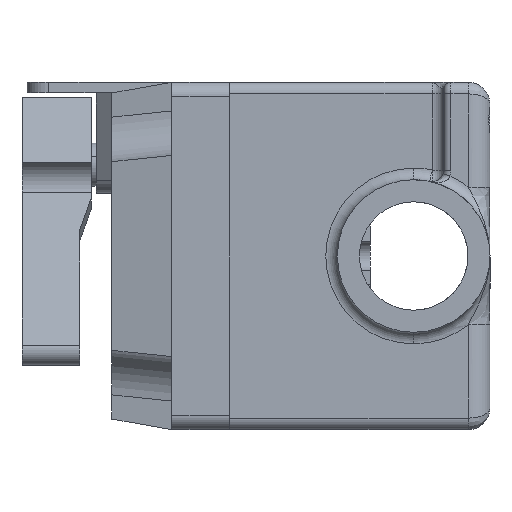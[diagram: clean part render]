
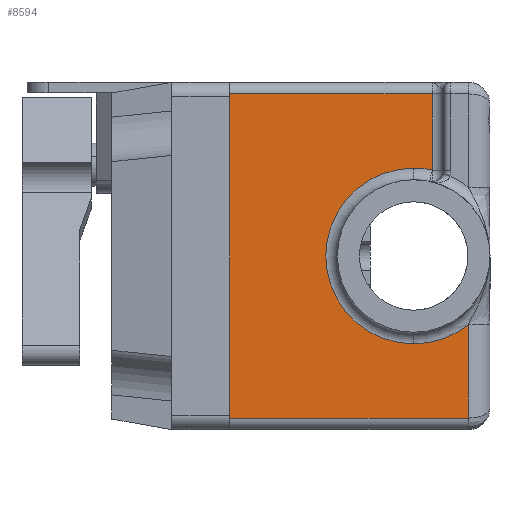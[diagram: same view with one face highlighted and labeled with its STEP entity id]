
A CAD part, left-side view. The second image highlights one B-rep face of the part: STEP entity #8594.
In plain terms, the highlighted planar face has unit normal (-1, 0, 0).
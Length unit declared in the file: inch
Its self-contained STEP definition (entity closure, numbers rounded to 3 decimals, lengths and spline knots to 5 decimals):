
#55 = CARTESIAN_POINT ( 'NONE',  ( -2.3125, 0.1875, -0.59491 ) ) ;
#247 = LINE ( 'NONE', #9741, #1621 ) ;
#485 = ORIENTED_EDGE ( 'NONE', *, *, #3374, .T. ) ;
#1287 = CARTESIAN_POINT ( 'NONE',  ( -2.3125, 2.25, 1.4 ) ) ;
#1344 = DIRECTION ( 'NONE',  ( 0., 0., 1. ) ) ;
#1399 = EDGE_CURVE ( 'NONE', #10306, #7744, #11190, .T. ) ;
#1621 = VECTOR ( 'NONE', #1344, 39.37008 ) ;
#1802 = LINE ( 'NONE', #6871, #5877 ) ;
#1851 = EDGE_CURVE ( 'NONE', #7744, #4723, #4985, .T. ) ;
#2232 = AXIS2_PLACEMENT_3D ( 'NONE', #11712, #15267, #8995 ) ;
#3038 = FACE_OUTER_BOUND ( 'NONE', #14625, .T. ) ;
#3110 = CARTESIAN_POINT ( 'NONE',  ( -2.3125, 0.5, 1.4 ) ) ;
#3269 = DIRECTION ( 'NONE',  ( 0., 0., 1. ) ) ;
#3374 = EDGE_CURVE ( 'NONE', #4723, #6835, #9550, .T. ) ;
#3904 = ORIENTED_EDGE ( 'NONE', *, *, #8525, .T. ) ;
#3976 = LINE ( 'NONE', #8658, #12611 ) ;
#4191 = CARTESIAN_POINT ( 'NONE',  ( -2.3125, 2.25, -1.4 ) ) ;
#4468 = ORIENTED_EDGE ( 'NONE', *, *, #7272, .T. ) ;
#4690 = ORIENTED_EDGE ( 'NONE', *, *, #1399, .T. ) ;
#4723 = VERTEX_POINT ( 'NONE', #11134 ) ;
#4838 = ORIENTED_EDGE ( 'NONE', *, *, #12231, .F. ) ;
#4985 = CIRCLE ( 'NONE', #10442, 0.75925 ) ;
#5146 = DIRECTION ( 'NONE',  ( 0., 0., 1. ) ) ;
#5147 = DIRECTION ( 'NONE',  ( 0., 0., -1. ) ) ;
#5383 = LINE ( 'NONE', #13458, #11371 ) ;
#5877 = VECTOR ( 'NONE', #3269, 39.37008 ) ;
#6405 = CARTESIAN_POINT ( 'NONE',  ( -2.3125, 0.65925, 0. ) ) ;
#6835 = VERTEX_POINT ( 'NONE', #11945 ) ;
#6871 = CARTESIAN_POINT ( 'NONE',  ( -2.3125, 0.5, 1.5 ) ) ;
#6994 = ORIENTED_EDGE ( 'NONE', *, *, #12537, .T. ) ;
#7092 = DIRECTION ( 'NONE',  ( 0., 1., 0. ) ) ;
#7272 = EDGE_CURVE ( 'NONE', #10720, #10306, #247, .T. ) ;
#7301 = ORIENTED_EDGE ( 'NONE', *, *, #1851, .T. ) ;
#7744 = VERTEX_POINT ( 'NONE', #11269 ) ;
#7807 = PLANE ( 'NONE',  #15046 ) ;
#8006 = CARTESIAN_POINT ( 'NONE',  ( -2.3125, 0.1875, -1.4 ) ) ;
#8280 = DIRECTION ( 'NONE',  ( 0., 0., -1. ) ) ;
#8340 = LINE ( 'NONE', #13295, #9149 ) ;
#8525 = EDGE_CURVE ( 'NONE', #6835, #12453, #1802, .T. ) ;
#8594 = ADVANCED_FACE ( 'NONE', ( #3038 ), #7807, .F. ) ;
#8658 = CARTESIAN_POINT ( 'NONE',  ( -2.3125, 2.25, 1.5 ) ) ;
#8995 = DIRECTION ( 'NONE',  ( 0., 0., -1. ) ) ;
#9034 = DIRECTION ( 'NONE',  ( 0., 0., -1. ) ) ;
#9149 = VECTOR ( 'NONE', #7092, 39.37008 ) ;
#9550 = CIRCLE ( 'NONE', #14023, 0.75925 ) ;
#9660 = VERTEX_POINT ( 'NONE', #1287 ) ;
#9741 = CARTESIAN_POINT ( 'NONE',  ( -2.3125, 0.1875, 1.5 ) ) ;
#10306 = VERTEX_POINT ( 'NONE', #55 ) ;
#10442 = AXIS2_PLACEMENT_3D ( 'NONE', #10755, #14090, #8280 ) ;
#10720 = VERTEX_POINT ( 'NONE', #8006 ) ;
#10755 = CARTESIAN_POINT ( 'NONE',  ( -2.3125, 0.65925, 0. ) ) ;
#11059 = DIRECTION ( 'NONE',  ( 0., -1., 0. ) ) ;
#11060 = DIRECTION ( 'NONE',  ( 1., 0., 0. ) ) ;
#11134 = CARTESIAN_POINT ( 'NONE',  ( -2.3125, 0.65925, 0.75925 ) ) ;
#11190 = CIRCLE ( 'NONE', #2232, 0.75925 ) ;
#11269 = CARTESIAN_POINT ( 'NONE',  ( -2.3125, 0.65925, -0.75925 ) ) ;
#11371 = VECTOR ( 'NONE', #11059, 39.37008 ) ;
#11544 = ORIENTED_EDGE ( 'NONE', *, *, #12207, .T. ) ;
#11712 = CARTESIAN_POINT ( 'NONE',  ( -2.3125, 0.65925, 0. ) ) ;
#11945 = CARTESIAN_POINT ( 'NONE',  ( -2.3125, 0.5, 0.74236 ) ) ;
#12207 = EDGE_CURVE ( 'NONE', #12714, #10720, #5383, .T. ) ;
#12231 = EDGE_CURVE ( 'NONE', #12714, #9660, #3976, .T. ) ;
#12453 = VERTEX_POINT ( 'NONE', #3110 ) ;
#12535 = CARTESIAN_POINT ( 'NONE',  ( -2.3125, 2.25, 1.5 ) ) ;
#12537 = EDGE_CURVE ( 'NONE', #12453, #9660, #8340, .T. ) ;
#12611 = VECTOR ( 'NONE', #5146, 39.37008 ) ;
#12714 = VERTEX_POINT ( 'NONE', #4191 ) ;
#13295 = CARTESIAN_POINT ( 'NONE',  ( -2.3125, 2.25, 1.4 ) ) ;
#13458 = CARTESIAN_POINT ( 'NONE',  ( -2.3125, 2.25, -1.4 ) ) ;
#14023 = AXIS2_PLACEMENT_3D ( 'NONE', #6405, #11060, #5147 ) ;
#14090 = DIRECTION ( 'NONE',  ( 1., 0., 0. ) ) ;
#14625 = EDGE_LOOP ( 'NONE', ( #11544, #4468, #4690, #7301, #485, #3904, #6994, #4838 ) ) ;
#14935 = DIRECTION ( 'NONE',  ( 1., 0., 0. ) ) ;
#15046 = AXIS2_PLACEMENT_3D ( 'NONE', #12535, #14935, #9034 ) ;
#15267 = DIRECTION ( 'NONE',  ( 1., 0., 0. ) ) ;
